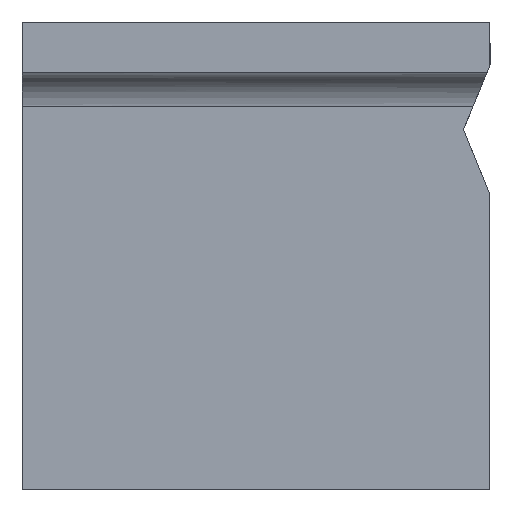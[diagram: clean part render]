
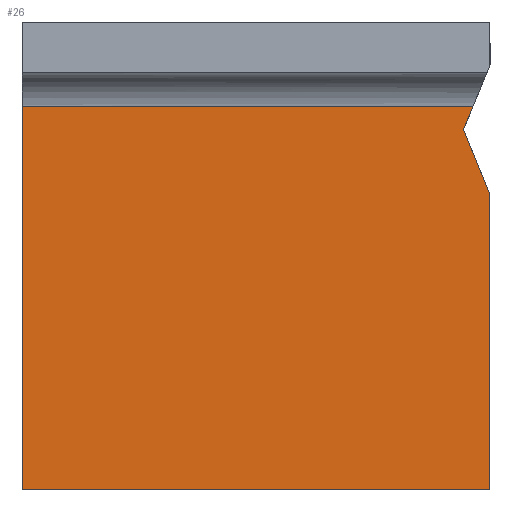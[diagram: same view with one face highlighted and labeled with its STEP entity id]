
A CAD part, left-side view. The second image highlights one B-rep face of the part: STEP entity #26.
In plain terms, the highlighted planar face has unit normal (-1, 0, 0).
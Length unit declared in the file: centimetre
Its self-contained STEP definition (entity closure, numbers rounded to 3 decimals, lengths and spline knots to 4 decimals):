
#11 = EDGE_CURVE ( 'NONE', #984, #36, #948, .T. ) ;
#26 = ADVANCED_FACE ( 'NONE', ( #1148 ), #863, .F. ) ;
#28 = ORIENTED_EDGE ( 'NONE', *, *, #1011, .T. ) ;
#36 = VERTEX_POINT ( 'NONE', #768 ) ;
#37 = LINE ( 'NONE', #836, #519 ) ;
#44 = CARTESIAN_POINT ( 'NONE',  ( 0., 0., 0. ) ) ;
#46 = DIRECTION ( 'NONE',  ( 0., 0., -1. ) ) ;
#58 = CARTESIAN_POINT ( 'NONE',  ( 0., 56.8277, 769.5701 ) ) ;
#153 = DIRECTION ( 'NONE',  ( 0., -1., 0. ) ) ;
#224 = AXIS2_PLACEMENT_3D ( 'NONE', #1034, #294, #668 ) ;
#234 = ORIENTED_EDGE ( 'NONE', *, *, #502, .T. ) ;
#261 = VERTEX_POINT ( 'NONE', #1192 ) ;
#266 = CARTESIAN_POINT ( 'NONE',  ( 0., 36.4956, 819.3316 ) ) ;
#294 = DIRECTION ( 'NONE',  ( 1., 0., 0. ) ) ;
#344 = DIRECTION ( 'NONE',  ( 0., 0., -1. ) ) ;
#356 = ORIENTED_EDGE ( 'NONE', *, *, #11, .F. ) ;
#398 = LINE ( 'NONE', #687, #564 ) ;
#412 = VECTOR ( 'NONE', #153, 100. ) ;
#421 = EDGE_CURVE ( 'NONE', #36, #797, #950, .T. ) ;
#458 = CARTESIAN_POINT ( 'NONE',  ( 0., 0., 1000. ) ) ;
#469 = DIRECTION ( 'NONE',  ( 0., -0.378, -0.926 ) ) ;
#475 = CARTESIAN_POINT ( 'NONE',  ( 0., 0., 819.3316 ) ) ;
#481 = VERTEX_POINT ( 'NONE', #266 ) ;
#502 = EDGE_CURVE ( 'NONE', #261, #797, #554, .T. ) ;
#518 = VECTOR ( 'NONE', #344, 100. ) ;
#519 = VECTOR ( 'NONE', #46, 100. ) ;
#554 = LINE ( 'NONE', #1122, #412 ) ;
#564 = VECTOR ( 'NONE', #785, 100. ) ;
#637 = EDGE_LOOP ( 'NONE', ( #757, #356, #1062, #1120, #28, #234 ) ) ;
#668 = DIRECTION ( 'NONE',  ( 0., 0., -1. ) ) ;
#669 = CARTESIAN_POINT ( 'NONE',  ( 0., 1000., 819.3316 ) ) ;
#687 = CARTESIAN_POINT ( 'NONE',  ( 0., 56.8277, 769.5701 ) ) ;
#727 = EDGE_CURVE ( 'NONE', #481, #984, #398, .T. ) ;
#757 = ORIENTED_EDGE ( 'NONE', *, *, #421, .F. ) ;
#768 = CARTESIAN_POINT ( 'NONE',  ( 0., 0., 630.4881 ) ) ;
#785 = DIRECTION ( 'NONE',  ( 0., 0.378, -0.926 ) ) ;
#797 = VERTEX_POINT ( 'NONE', #44 ) ;
#836 = CARTESIAN_POINT ( 'NONE',  ( 0., 1000., 1000. ) ) ;
#863 = PLANE ( 'NONE',  #224 ) ;
#864 = DIRECTION ( 'NONE',  ( 0., 1., 0. ) ) ;
#948 = LINE ( 'NONE', #1251, #1115 ) ;
#950 = LINE ( 'NONE', #458, #518 ) ;
#984 = VERTEX_POINT ( 'NONE', #58 ) ;
#1011 = EDGE_CURVE ( 'NONE', #1130, #261, #37, .T. ) ;
#1034 = CARTESIAN_POINT ( 'NONE',  ( 0., 1000., 1000. ) ) ;
#1062 = ORIENTED_EDGE ( 'NONE', *, *, #727, .F. ) ;
#1071 = VECTOR ( 'NONE', #864, 100. ) ;
#1115 = VECTOR ( 'NONE', #469, 100. ) ;
#1120 = ORIENTED_EDGE ( 'NONE', *, *, #1179, .T. ) ;
#1122 = CARTESIAN_POINT ( 'NONE',  ( 0., 1000., 0. ) ) ;
#1130 = VERTEX_POINT ( 'NONE', #669 ) ;
#1148 = FACE_OUTER_BOUND ( 'NONE', #637, .T. ) ;
#1179 = EDGE_CURVE ( 'NONE', #481, #1130, #1235, .T. ) ;
#1192 = CARTESIAN_POINT ( 'NONE',  ( 0., 1000., 0. ) ) ;
#1235 = LINE ( 'NONE', #475, #1071 ) ;
#1251 = CARTESIAN_POINT ( 'NONE',  ( 0., 0., 630.4881 ) ) ;
